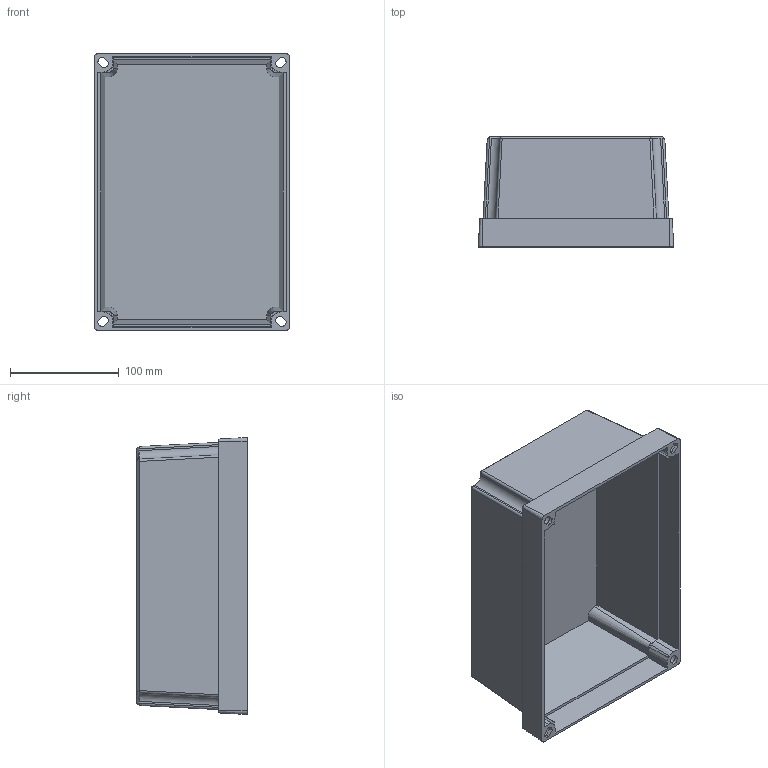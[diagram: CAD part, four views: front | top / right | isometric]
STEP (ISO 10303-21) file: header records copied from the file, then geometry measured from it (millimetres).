
FILE_DESCRIPTION (( 'STEP AP203' ), '1' );
FILE_NAME ('FIBOX_MNX200100C.STEP', '2005-06-30T06:39:33', ( ' ' ), ( ' ' ), 'SwSTEP 2.0', 'SolidWorks 2005143', '' );
FILE_SCHEMA (( 'CONFIG_CONTROL_DESIGN' ));
Length unit declared in the file: millimetre
Products named in the file (1): FIBOX_MNX200100C
Bounding box: 180 x 101.6 x 255 mm (x, y, z)
Volume: 257752.1 mm3; surface area: 249436.5 mm2
Topology: 1 solids, 1 shells, 143 faces, 393 edges, 259 vertices
Faces by surface type: plane 85, cylinder 36, cone 20, bspline 2
Entity records: 7383 total; most frequent: CARTESIAN_POINT 3715, ORIENTED_EDGE 786, DIRECTION 702, EDGE_CURVE 393, VERTEX_POINT 259, AXIS2_PLACEMENT_3D 238, VECTOR 226, LINE 226
